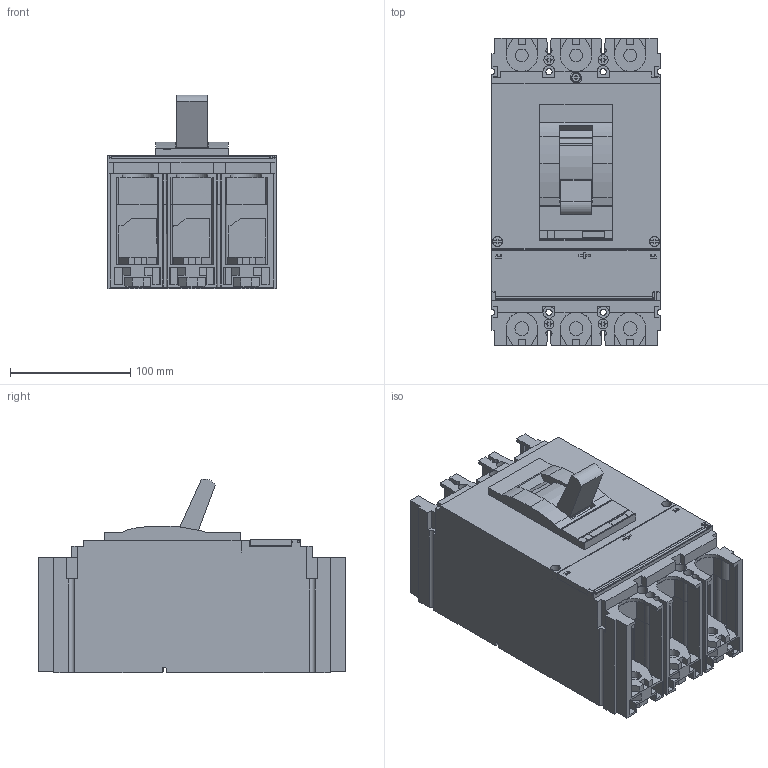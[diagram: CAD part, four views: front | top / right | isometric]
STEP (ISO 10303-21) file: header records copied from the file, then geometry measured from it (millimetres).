
FILE_DESCRIPTION((''),'2;1');
FILE_NAME('1684842146507_ASM','2023-05-23T17:12:50',('SESA644935'),('Schneider-Electric'),'CREO PARAMETRIC BY PTC INC, 2021284','CREO PARAMETRIC BY PTC INC, 2021284','');
FILE_SCHEMA(('AP242_MANAGED_MODEL_BASED_3D_ENGINEERING_MIM_LF { 1 0 10303 442 1 1 4 }'));
Length unit declared in the file: millimetre
Products named in the file (5): EMPTYNODE_1684842146538_ASM; MODEL-C2-3P-MA; MODEL-C2-3P-MA-CAP; MODEL-C2-3P-MA-3D_ASM; 1684842146507_ASM
Assembly tree (4 placements, depth 3):
  1684842146507_ASM
    EMPTYNODE_1684842146538_ASM
    MODEL-C2-3P-MA-3D_ASM
      MODEL-C2-3P-MA
      MODEL-C2-3P-MA-CAP
Bounding box: 139.75 x 255 x 161.05 mm (x, y, z)
Volume: 3278920.8 mm3; surface area: 263623.6 mm2
Topology: 3 solids, 3 shells, 978 faces, 2729 edges, 1799 vertices
Faces by surface type: plane 807, cylinder 169, extrusion 2
Entity records: 42968 total; most frequent: CARTESIAN_POINT 5613, ORIENTED_EDGE 5458, DIRECTION 5084, PRESENTATION_STYLE_ASSIGNMENT 3019, STYLED_ITEM 2732, CURVE_STYLE 2729, EDGE_CURVE 2729, VECTOR 2318
